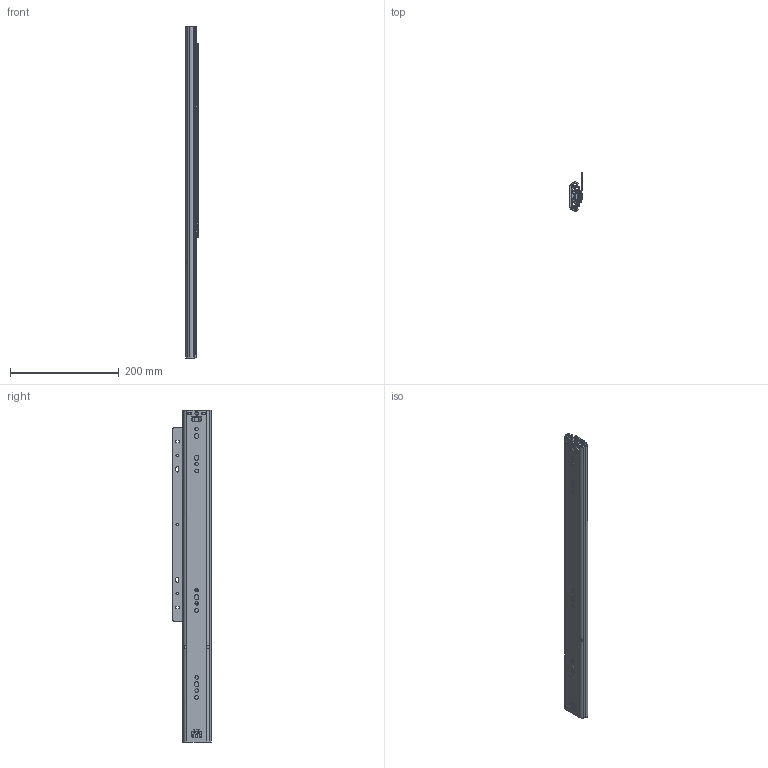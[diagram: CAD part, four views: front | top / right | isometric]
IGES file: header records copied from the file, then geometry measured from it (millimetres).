
Global section: file name: No Iges File Name specified; native system: Autodesk Inventor 2012; preprocessor: AutoDesk Inventor Iges Exporter R2012; author: HV83751; date: 20130708.091533; units: inch
Bounding box: 22.61 x 70.18 x 609.61 mm (x, y, z)
Surface area: 290021.1 mm2
Topology: 6 solids, 31 shells, 1620 faces, 4786 edges, 3090 vertices
Faces by surface type: plane 808, revolution 427, cylinder 328, bspline 48, torus 9
